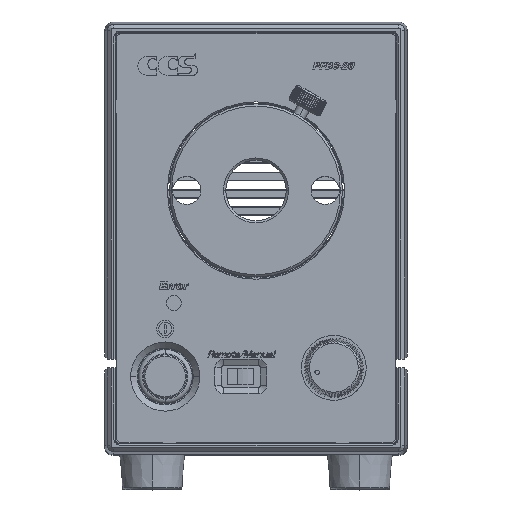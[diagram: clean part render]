
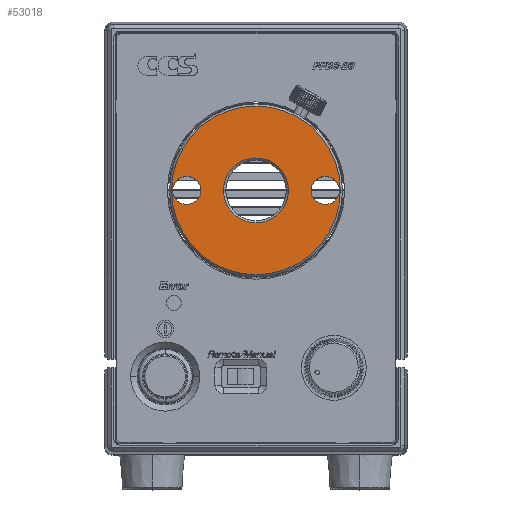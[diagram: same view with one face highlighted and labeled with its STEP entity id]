
A CAD part, top view. The second image highlights one B-rep face of the part: STEP entity #53018.
In plain terms, the highlighted planar face has unit normal (0, 0, 1).
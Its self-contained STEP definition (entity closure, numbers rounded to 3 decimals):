
#715 = AXIS2_PLACEMENT_3D ( 'NONE', #16429, #76779, #3644 ) ;
#772 = FACE_BOUND ( 'NONE', #51445, .T. ) ;
#1510 = VERTEX_POINT ( 'NONE', #60079 ) ;
#1708 = FACE_BOUND ( 'NONE', #78322, .T. ) ;
#2054 = CARTESIAN_POINT ( 'NONE',  ( -19.25, 11., 97.801 ) ) ;
#2376 = CARTESIAN_POINT ( 'NONE',  ( 0., 11., 97.801 ) ) ;
#2567 = EDGE_LOOP ( 'NONE', ( #33255, #77460 ) ) ;
#3644 = DIRECTION ( 'NONE',  ( -1., 0., 0. ) ) ;
#4124 = ORIENTED_EDGE ( 'NONE', *, *, #58743, .F. ) ;
#5452 = AXIS2_PLACEMENT_3D ( 'NONE', #21298, #39357, #64018 ) ;
#6155 = CARTESIAN_POINT ( 'NONE',  ( -16., 11., 97.801 ) ) ;
#6798 = DIRECTION ( 'NONE',  ( 0., 0., 1. ) ) ;
#7951 = EDGE_LOOP ( 'NONE', ( #48886, #20230 ) ) ;
#8363 = CIRCLE ( 'NONE', #16022, 3.25 ) ;
#8861 = AXIS2_PLACEMENT_3D ( 'NONE', #15394, #58023, #64216 ) ;
#9060 = AXIS2_PLACEMENT_3D ( 'NONE', #2376, #63477, #44979 ) ;
#9895 = CARTESIAN_POINT ( 'NONE',  ( -19.5, 11., 97.801 ) ) ;
#10180 = AXIS2_PLACEMENT_3D ( 'NONE', #45894, #58221, #57673 ) ;
#10813 = AXIS2_PLACEMENT_3D ( 'NONE', #14863, #40098, #27103 ) ;
#13115 = EDGE_CURVE ( 'NONE', #63164, #13942, #8363, .T. ) ;
#13189 = CARTESIAN_POINT ( 'NONE',  ( 16., 11., 97.801 ) ) ;
#13942 = VERTEX_POINT ( 'NONE', #2054 ) ;
#14031 = EDGE_CURVE ( 'NONE', #1510, #60166, #42495, .T. ) ;
#14863 = CARTESIAN_POINT ( 'NONE',  ( 0., 11., 97.801 ) ) ;
#15394 = CARTESIAN_POINT ( 'NONE',  ( -16., 11., 97.801 ) ) ;
#16001 = FACE_BOUND ( 'NONE', #7951, .T. ) ;
#16022 = AXIS2_PLACEMENT_3D ( 'NONE', #6155, #73456, #72690 ) ;
#16429 = CARTESIAN_POINT ( 'NONE',  ( 0., 11., 97.801 ) ) ;
#20230 = ORIENTED_EDGE ( 'NONE', *, *, #66632, .T. ) ;
#20322 = EDGE_CURVE ( 'NONE', #43711, #77264, #69468, .T. ) ;
#21298 = CARTESIAN_POINT ( 'NONE',  ( 0., 31., 97.801 ) ) ;
#21540 = DIRECTION ( 'NONE',  ( 1., 0., 0. ) ) ;
#21973 = VERTEX_POINT ( 'NONE', #31123 ) ;
#23778 = ORIENTED_EDGE ( 'NONE', *, *, #45117, .F. ) ;
#26190 = AXIS2_PLACEMENT_3D ( 'NONE', #13189, #6798, #31516 ) ;
#27103 = DIRECTION ( 'NONE',  ( -1., 0., 0. ) ) ;
#27429 = CARTESIAN_POINT ( 'NONE',  ( -12.75, 11., 97.801 ) ) ;
#31123 = CARTESIAN_POINT ( 'NONE',  ( 12.75, 11., 97.801 ) ) ;
#31516 = DIRECTION ( 'NONE',  ( 1., 0., 0. ) ) ;
#33242 = PLANE ( 'NONE',  #5452 ) ;
#33255 = ORIENTED_EDGE ( 'NONE', *, *, #52952, .T. ) ;
#34375 = CARTESIAN_POINT ( 'NONE',  ( 7.5, 11., 97.801 ) ) ;
#39357 = DIRECTION ( 'NONE',  ( 0., 0., -1. ) ) ;
#40098 = DIRECTION ( 'NONE',  ( 0., 0., -1. ) ) ;
#40256 = CIRCLE ( 'NONE', #10180, 7.5 ) ;
#40883 = CIRCLE ( 'NONE', #8861, 3.25 ) ;
#41936 = AXIS2_PLACEMENT_3D ( 'NONE', #57543, #46248, #21540 ) ;
#42495 = CIRCLE ( 'NONE', #715, 19.5 ) ;
#43027 = CARTESIAN_POINT ( 'NONE',  ( -7.5, 11., 97.801 ) ) ;
#43711 = VERTEX_POINT ( 'NONE', #34375 ) ;
#44979 = DIRECTION ( 'NONE',  ( -1., 0., 0. ) ) ;
#45117 = EDGE_CURVE ( 'NONE', #13942, #63164, #40883, .T. ) ;
#45707 = CARTESIAN_POINT ( 'NONE',  ( 19.25, 11., 97.801 ) ) ;
#45894 = CARTESIAN_POINT ( 'NONE',  ( 0., 11., 97.801 ) ) ;
#46248 = DIRECTION ( 'NONE',  ( 0., 0., 1. ) ) ;
#48522 = VERTEX_POINT ( 'NONE', #45707 ) ;
#48886 = ORIENTED_EDGE ( 'NONE', *, *, #20322, .T. ) ;
#49842 = CIRCLE ( 'NONE', #26190, 3.25 ) ;
#51445 = EDGE_LOOP ( 'NONE', ( #4124, #66037 ) ) ;
#52952 = EDGE_CURVE ( 'NONE', #60166, #1510, #79032, .T. ) ;
#53018 = ADVANCED_FACE ( 'NONE', ( #16001, #60846, #1708, #772 ), #33242, .F. ) ;
#55514 = ORIENTED_EDGE ( 'NONE', *, *, #13115, .F. ) ;
#57543 = CARTESIAN_POINT ( 'NONE',  ( 16., 11., 97.801 ) ) ;
#57673 = DIRECTION ( 'NONE',  ( -1., 0., 0. ) ) ;
#57941 = EDGE_CURVE ( 'NONE', #21973, #48522, #69196, .T. ) ;
#58023 = DIRECTION ( 'NONE',  ( 0., 0., 1. ) ) ;
#58221 = DIRECTION ( 'NONE',  ( 0., 0., -1. ) ) ;
#58743 = EDGE_CURVE ( 'NONE', #48522, #21973, #49842, .T. ) ;
#60079 = CARTESIAN_POINT ( 'NONE',  ( 19.5, 11., 97.801 ) ) ;
#60166 = VERTEX_POINT ( 'NONE', #9895 ) ;
#60846 = FACE_OUTER_BOUND ( 'NONE', #2567, .T. ) ;
#63164 = VERTEX_POINT ( 'NONE', #27429 ) ;
#63477 = DIRECTION ( 'NONE',  ( 0., 0., 1. ) ) ;
#64018 = DIRECTION ( 'NONE',  ( -1., 0., 0. ) ) ;
#64216 = DIRECTION ( 'NONE',  ( 1., 0., 0. ) ) ;
#66037 = ORIENTED_EDGE ( 'NONE', *, *, #57941, .F. ) ;
#66632 = EDGE_CURVE ( 'NONE', #77264, #43711, #40256, .T. ) ;
#69196 = CIRCLE ( 'NONE', #41936, 3.25 ) ;
#69468 = CIRCLE ( 'NONE', #10813, 7.5 ) ;
#72690 = DIRECTION ( 'NONE',  ( 1., 0., 0. ) ) ;
#73456 = DIRECTION ( 'NONE',  ( 0., 0., 1. ) ) ;
#76779 = DIRECTION ( 'NONE',  ( 0., 0., 1. ) ) ;
#77264 = VERTEX_POINT ( 'NONE', #43027 ) ;
#77460 = ORIENTED_EDGE ( 'NONE', *, *, #14031, .T. ) ;
#78322 = EDGE_LOOP ( 'NONE', ( #55514, #23778 ) ) ;
#79032 = CIRCLE ( 'NONE', #9060, 19.5 ) ;
